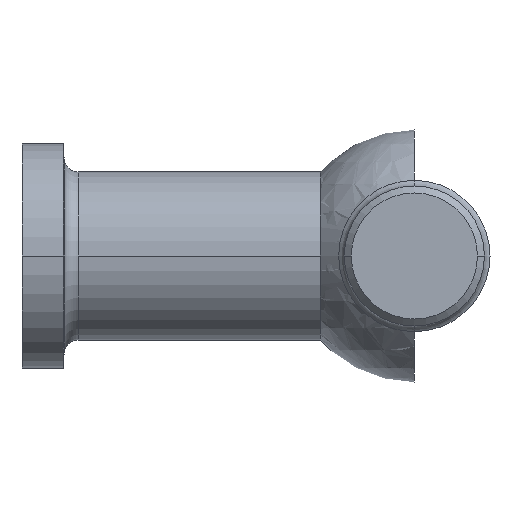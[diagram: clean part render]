
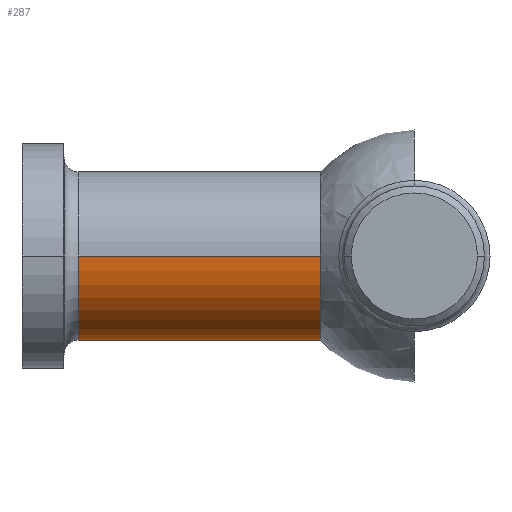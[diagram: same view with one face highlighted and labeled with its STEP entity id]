
A CAD part, left-side view. The second image highlights one B-rep face of the part: STEP entity #287.
In plain terms, the highlighted cylindrical face has radius 6 mm (diameter 12 mm), a partial arc.
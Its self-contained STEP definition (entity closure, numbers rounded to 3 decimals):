
#171 = EDGE_CURVE( '', #257, #315, #462, .T. );
#195 = EDGE_CURVE( '', #315, #305, #488, .T. );
#197 = EDGE_CURVE( '', #293, #305, #490, .T. );
#257 = VERTEX_POINT( '', #555 );
#287 = ADVANCED_FACE( '', ( #590 ), #591, .T. );
#293 = VERTEX_POINT( '', #597 );
#305 = VERTEX_POINT( '', #611 );
#315 = VERTEX_POINT( '', #622 );
#331 = EDGE_CURVE( '', #393, #293, #639, .T. );
#393 = VERTEX_POINT( '', #709 );
#399 = EDGE_CURVE( '', #257, #393, #715, .T. );
#462 = CIRCLE( '', #777, 6. );
#488 = CIRCLE( '', #808, 6. );
#490 = LINE( '', #811, #812 );
#555 = CARTESIAN_POINT( '', ( -6., -4., 0. ) );
#590 = FACE_OUTER_BOUND( '', #937, .T. );
#591 = CYLINDRICAL_SURFACE( '', #938, 6. );
#597 = CARTESIAN_POINT( '', ( 6., -21.292, 0. ) );
#611 = CARTESIAN_POINT( '', ( 6., -4., 0. ) );
#622 = CARTESIAN_POINT( '', ( 0., -4., -6. ) );
#639 = CIRCLE( '', #999, 6. );
#709 = CARTESIAN_POINT( '', ( -6., -21.292, 0. ) );
#715 = LINE( '', #1098, #1099 );
#777 = AXIS2_PLACEMENT_3D( '', #1157, #1158, #1159 );
#808 = AXIS2_PLACEMENT_3D( '', #1187, #1188, #1189 );
#811 = CARTESIAN_POINT( '', ( 6., -12.65, 0. ) );
#812 = VECTOR( '', #1190, 1. );
#937 = EDGE_LOOP( '', ( #1321, #1322, #1323, #1324, #1325 ) );
#938 = AXIS2_PLACEMENT_3D( '', #1326, #1327, #1328 );
#999 = AXIS2_PLACEMENT_3D( '', #1391, #1392, #1393 );
#1098 = CARTESIAN_POINT( '', ( -6., -12.65, 0. ) );
#1099 = VECTOR( '', #1506, 1. );
#1157 = CARTESIAN_POINT( '', ( 0., -4., 0. ) );
#1158 = DIRECTION( '', ( 0., -1., 0. ) );
#1159 = DIRECTION( '', ( -1., 0., 0. ) );
#1187 = CARTESIAN_POINT( '', ( 0., -4., 0. ) );
#1188 = DIRECTION( '', ( 0., -1., 0. ) );
#1189 = DIRECTION( '', ( -1., 0., 0. ) );
#1190 = DIRECTION( '', ( 0., 1., 0. ) );
#1321 = ORIENTED_EDGE( '', *, *, #399, .F. );
#1322 = ORIENTED_EDGE( '', *, *, #171, .T. );
#1323 = ORIENTED_EDGE( '', *, *, #195, .T. );
#1324 = ORIENTED_EDGE( '', *, *, #197, .F. );
#1325 = ORIENTED_EDGE( '', *, *, #331, .F. );
#1326 = CARTESIAN_POINT( '', ( 0., -12.65, 0. ) );
#1327 = DIRECTION( '', ( 0., 1., 0. ) );
#1328 = DIRECTION( '', ( -1., 0., 0. ) );
#1391 = CARTESIAN_POINT( '', ( 0., -21.292, 0. ) );
#1392 = DIRECTION( '', ( 0., -1., 0. ) );
#1393 = DIRECTION( '', ( -1., 0., 0. ) );
#1506 = DIRECTION( '', ( 0., -1., 0. ) );
